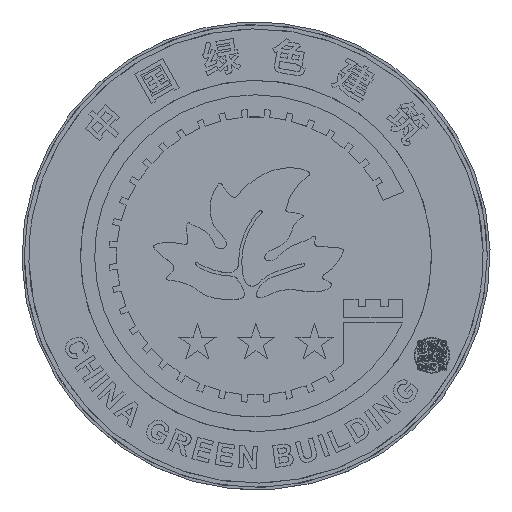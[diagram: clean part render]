
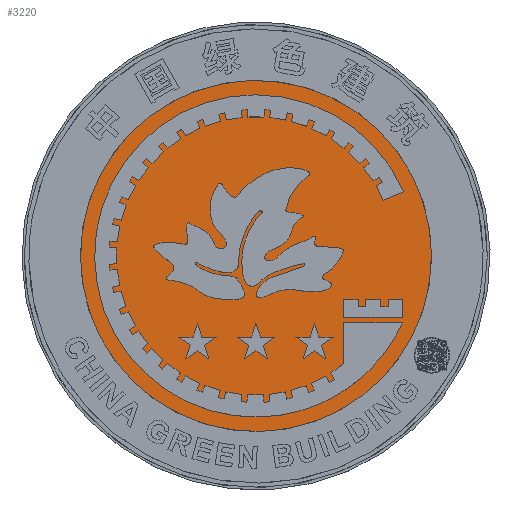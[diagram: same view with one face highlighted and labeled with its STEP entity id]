
A CAD part, top view. The second image highlights one B-rep face of the part: STEP entity #3220.
In plain terms, the highlighted planar face has unit normal (0, 0, 1).
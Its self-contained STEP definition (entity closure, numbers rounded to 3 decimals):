
#3220=ADVANCED_FACE('',(#5498),#32330,.T.);
#5498=FACE_OUTER_BOUND('',#7818,.T.);
#7818=EDGE_LOOP('',(#17966,#17967));
#17966=ORIENTED_EDGE('',*,*,#23044,.T.);
#17967=ORIENTED_EDGE('',*,*,#23047,.T.);
#23044=EDGE_CURVE('',#31513,#31515,#28128,.T.);
#23047=EDGE_CURVE('',#31515,#31513,#28131,.T.);
#28128=B_SPLINE_CURVE_WITH_KNOTS('',3,(#81313,#81314,#81315,#81316,#81317,
#81318,#81319,#81320,#81321,#81322,#81323,#81324,#81325),.UNSPECIFIED.,
 .F.,.F.,(4,3,3,3,4),(-9.,-8.,-7.,-6.,-5.),.UNSPECIFIED.);
#28131=B_SPLINE_CURVE_WITH_KNOTS('',3,(#81341,#81342,#81343,#81344,#81345,
#81346,#81347,#81348,#81349,#81350,#81351,#81352,#81353),.UNSPECIFIED.,
 .F.,.F.,(4,3,3,3,4),(-5.,-4.,-3.,-2.,-1.),.UNSPECIFIED.);
#31513=VERTEX_POINT('',#81295);
#31515=VERTEX_POINT('',#81297);
#32330=PLANE('',#34628);
#34628=AXIS2_PLACEMENT_3D('',#81267,#35447,$);
#35447=DIRECTION('',(0.,0.,1.));
#81267=CARTESIAN_POINT('',(5630.708,1974.069,3.333));
#81295=CARTESIAN_POINT('',(5473.918,1393.066,3.333));
#81297=CARTESIAN_POINT('',(5037.254,1804.835,3.333));
#81313=CARTESIAN_POINT('',(5473.918,1393.066,3.333));
#81314=CARTESIAN_POINT('',(5528.6,1451.058,3.333));
#81315=CARTESIAN_POINT('',(5557.891,1528.077,3.333));
#81316=CARTESIAN_POINT('',(5555.554,1607.745,3.333));
#81317=CARTESIAN_POINT('',(5553.217,1687.425,3.333));
#81318=CARTESIAN_POINT('',(5519.46,1762.598,3.333));
#81319=CARTESIAN_POINT('',(5461.469,1817.281,3.333));
#81320=CARTESIAN_POINT('',(5403.482,1871.968,3.333));
#81321=CARTESIAN_POINT('',(5326.457,1901.252,3.333));
#81322=CARTESIAN_POINT('',(5246.789,1898.916,3.333));
#81323=CARTESIAN_POINT('',(5167.11,1896.579,3.333));
#81324=CARTESIAN_POINT('',(5091.942,1862.827,3.333));
#81325=CARTESIAN_POINT('',(5037.254,1804.835,3.333));
#81341=CARTESIAN_POINT('',(5037.254,1804.835,3.333));
#81342=CARTESIAN_POINT('',(4982.572,1746.843,3.333));
#81343=CARTESIAN_POINT('',(4953.282,1669.827,3.333));
#81344=CARTESIAN_POINT('',(4955.619,1590.15,3.333));
#81345=CARTESIAN_POINT('',(4957.955,1510.477,3.333));
#81346=CARTESIAN_POINT('',(4991.708,1435.303,3.333));
#81347=CARTESIAN_POINT('',(5049.7,1380.616,3.333));
#81348=CARTESIAN_POINT('',(5107.692,1325.934,3.333));
#81349=CARTESIAN_POINT('',(5184.707,1296.65,3.333));
#81350=CARTESIAN_POINT('',(5264.384,1298.986,3.333));
#81351=CARTESIAN_POINT('',(5344.058,1301.323,3.333));
#81352=CARTESIAN_POINT('',(5419.231,1335.074,3.333));
#81353=CARTESIAN_POINT('',(5473.918,1393.066,3.333));
